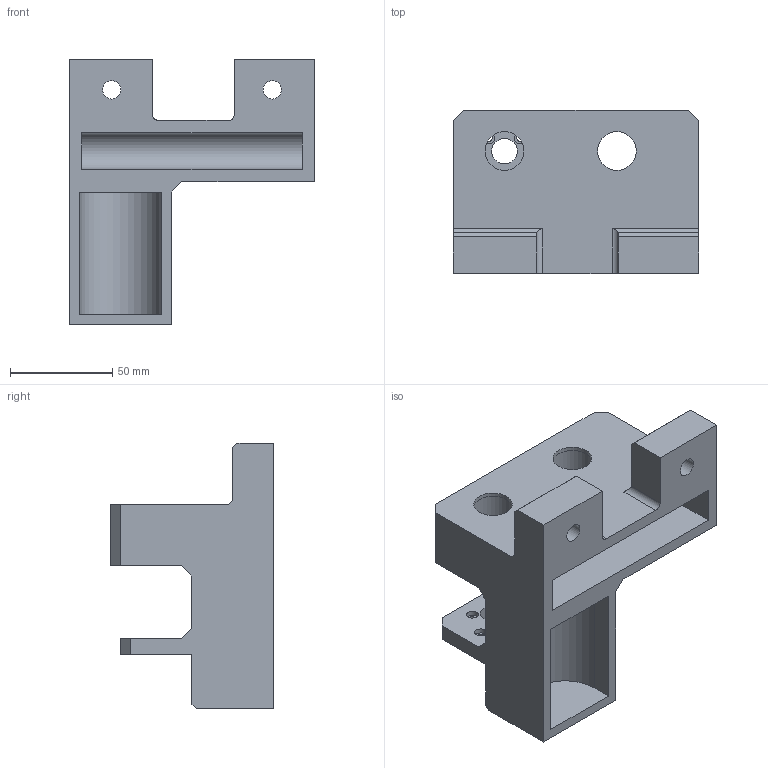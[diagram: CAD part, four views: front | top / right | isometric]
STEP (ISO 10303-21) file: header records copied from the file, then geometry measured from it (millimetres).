
FILE_DESCRIPTION(/* description */ ('','CAx-IF Rec.Pracs.---Representation and Presentation of Product Manufacturing Information (PMI)---4.0---2014-10-13'),/* implementation_level */ '2;1');
FILE_NAME(/* name */ 'carter_interasse_55mm.stp',/* time_stamp */ '2026-09-30T06:29:24+02:00',/* author */ ('R5800u'),/* organization */ (''),/* preprocessor_version */ 'ST-DEVELOPER v20',/* originating_system */ 'Autodesk Inventor 2025',/* authorisation */ '');
FILE_SCHEMA (('AP242_MANAGED_MODEL_BASED_3D_ENGINEERING_MIM_LF { 1 0 10303 442 1 1 4 }'));
Length unit declared in the file: millimetre
Products named in the file (1): carter_interasse_55mm
Bounding box: 120 x 80 x 130 mm (x, y, z)
Volume: 320383.7 mm3; surface area: 73216.2 mm2
Topology: 1 solids, 1 shells, 83 faces, 200 edges, 133 vertices
Faces by surface type: plane 56, cylinder 27
Full cylindrical faces by diameter (mm): 3.4 x4, 5.8 x4, 9 x2, 12.5 x1, 15 x2, 19 x2, 22 x4, 23 x1, 24 x1
Entity records: 2595 total; most frequent: DIRECTION 456, CARTESIAN_POINT 434, ORIENTED_EDGE 400, EDGE_CURVE 200, AXIS2_PLACEMENT_3D 159, LINE 138, VECTOR 138, VERTEX_POINT 133
